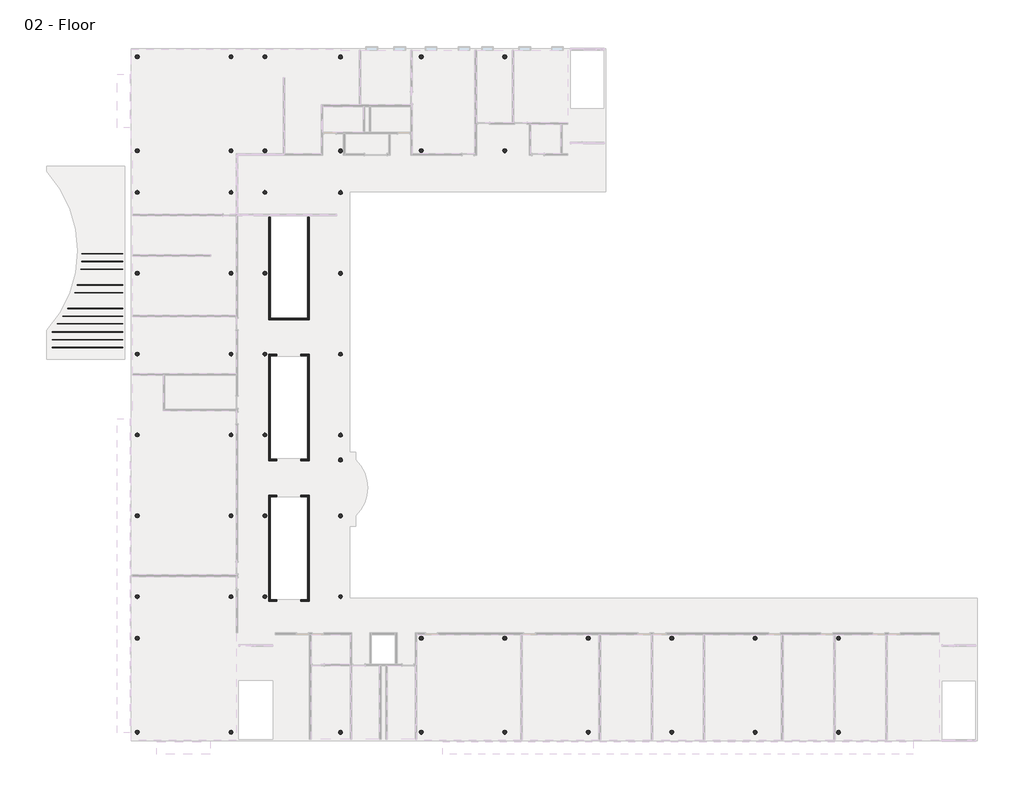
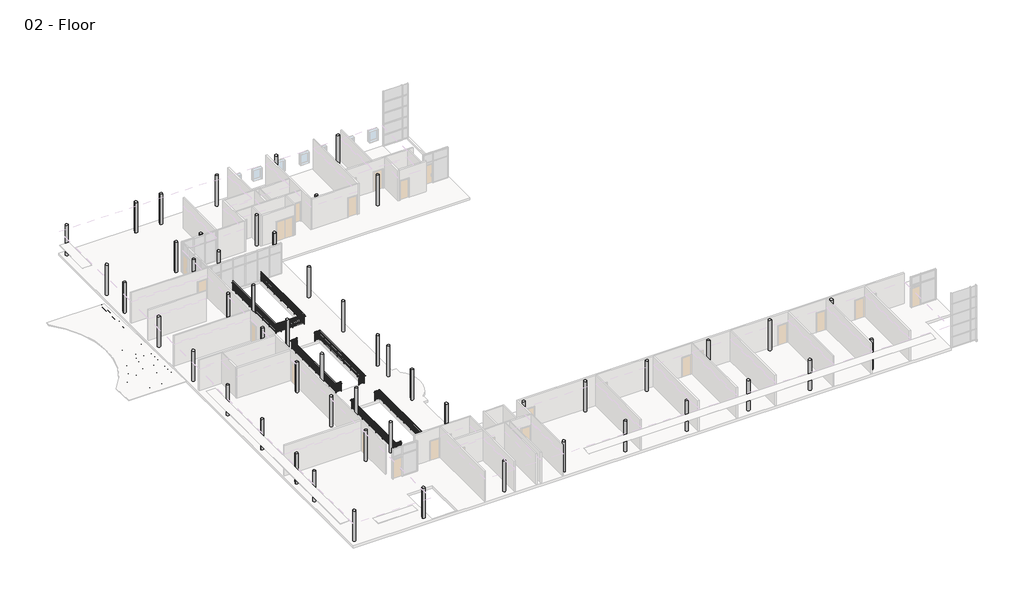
# One storey, part 5 of 5: 53 columns, 14 beams, 5 railings.
"""IFC4 building model written with IfcOpenShell, lengths in millimetres."""

from ifc_helpers import new_model, si_unit, point, frame, frame_2d, origin, place, context, project, spatial, circle_curve, trimmed, segment, composite_curve, outline, extrude, transform, mapped, element, save
from components import k_series_bar_joist_rod_web_8k1_218abb50, k_series_bar_joist_rod_web_8k1_a298f018, k_series_bar_joist_rod_web_8k1_5ba47054, k_series_bar_joist_rod_web_8k1_7ca94746, k_series_bar_joist_rod_web_8k1_f1b48c2f, k_series_bar_joist_rod_web_8k1_67cc681e, k_series_bar_joist_rod_web_8k1_7126daa4, k_series_bar_joist_rod_web_8k1_4aadf061, k_series_bar_joist_rod_web_8k1_1f0329fa, k_series_bar_joist_rod_web_8k1_fc2c6b5f, k_series_bar_joist_rod_web_8k1_7da3c62f, k_series_bar_joist_rod_web_8k1_abf054b3, w_wide_flange_w12x26_f0aa8a0b, guardrail_pipe_c5bc1630, guardrail_pipe_ba8d120a, guardrail_pipe_d66bd3a1, guardrail_pipe_35cc9563, guardrail_pipe_73f3f576

model = new_model("IFC4")

# Units and contexts
model_context = context("Model", 3, world=origin())
ifc_project = project(units=[si_unit("LENGTHUNIT", "METRE", prefix="MILLI")], contexts=[model_context])

# Site, building, storey
site = spatial("IfcSite", under=ifc_project)
building = spatial("IfcBuilding", under=site)
storey = spatial("IfcBuildingStorey", under=building, Name="02 - Floor", Elevation=3657.6)

# Beams
placement = place(None, origin())
k_series_bar_joist_rod_web_8k1_shape = k_series_bar_joist_rod_web_8k1_218abb50(model_context)
element("IfcBeam", 1, ObjectType="K-Series Bar Joist-Rod Web : 8K1", at=placement, inside=storey, context=model_context, shape_type="MappedRepresentation", body=[
    mapped(k_series_bar_joist_rod_web_8k1_shape, transform((-2077.8534975, 37887.4874936, 3763.3936918), x_axis=(1.0, 0.0, 0.0), y_axis=(0.0, 0.9995376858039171, -0.030404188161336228), z_axis=(0.0, 0.030404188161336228, 0.9995376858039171))),
])
k_series_bar_joist_rod_web_8k1_2_shape = k_series_bar_joist_rod_web_8k1_a298f018(model_context)
element("IfcBeam", 2, ObjectType="K-Series Bar Joist-Rod Web : 8K1", at=placement, inside=storey, context=model_context, shape_type="MappedRepresentation", body=[
    mapped(k_series_bar_joist_rod_web_8k1_2_shape, transform((-2094.5285249, 37278.1693203, 3781.9280849), x_axis=(1.0, 0.0, 0.0), y_axis=(0.0, 0.9995376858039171, -0.030404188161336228), z_axis=(0.0, 0.030404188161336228, 0.9995376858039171))),
])
k_series_bar_joist_rod_web_8k1_3_shape = k_series_bar_joist_rod_web_8k1_5ba47054(model_context)
element("IfcBeam", 3, ObjectType="K-Series Bar Joist-Rod Web : 8K1", at=placement, inside=storey, context=model_context, shape_type="MappedRepresentation", body=[
    mapped(k_series_bar_joist_rod_web_8k1_3_shape, transform((-2131.1144026, 36668.851147, 3800.462478), x_axis=(1.0, 0.0, 0.0), y_axis=(0.0, 0.9995376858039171, -0.030404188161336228), z_axis=(0.0, 0.030404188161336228, 0.9995376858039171))),
])
k_series_bar_joist_rod_web_8k1_4_shape = k_series_bar_joist_rod_web_8k1_7ca94746(model_context)
element("IfcBeam", 4, ObjectType="K-Series Bar Joist-Rod Web : 8K1", at=placement, inside=storey, context=model_context, shape_type="MappedRepresentation", body=[
    mapped(k_series_bar_joist_rod_web_8k1_4_shape, transform((-2188.0848485, 36059.5329738, 3818.9968711), x_axis=(1.0, 0.0, 0.0), y_axis=(0.0, 0.9995376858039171, -0.030404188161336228), z_axis=(0.0, 0.030404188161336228, 0.9995376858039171))),
])
k_series_bar_joist_rod_web_8k1_5_shape = k_series_bar_joist_rod_web_8k1_f1b48c2f(model_context)
element("IfcBeam", 5, ObjectType="K-Series Bar Joist-Rod Web : 8K1", at=placement, inside=storey, context=model_context, shape_type="MappedRepresentation", body=[
    mapped(k_series_bar_joist_rod_web_8k1_5_shape, transform((-2266.208057, 35450.2148005, 3837.5312642), x_axis=(1.0, 0.0, 0.0), y_axis=(0.0, 0.9995376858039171, -0.030404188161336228), z_axis=(0.0, 0.030404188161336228, 0.9995376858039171))),
])
k_series_bar_joist_rod_web_8k1_6_shape = k_series_bar_joist_rod_web_8k1_67cc681e(model_context)
element("IfcBeam", 6, ObjectType="K-Series Bar Joist-Rod Web : 8K1", at=placement, inside=storey, context=model_context, shape_type="MappedRepresentation", body=[
    mapped(k_series_bar_joist_rod_web_8k1_6_shape, transform((-2366.6018476, 34840.8966272, 3856.0656573), x_axis=(1.0, 0.0, 0.0), y_axis=(0.0, 0.9995376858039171, -0.030404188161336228), z_axis=(0.0, 0.030404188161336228, 0.9995376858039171))),
])
k_series_bar_joist_rod_web_8k1_7_shape = k_series_bar_joist_rod_web_8k1_7126daa4(model_context)
element("IfcBeam", 7, ObjectType="K-Series Bar Joist-Rod Web : 8K1", at=placement, inside=storey, context=model_context, shape_type="MappedRepresentation", body=[
    mapped(k_series_bar_joist_rod_web_8k1_7_shape, transform((-2490.8221092, 34231.578454, 3874.6000504), x_axis=(1.0, 0.0, 0.0), y_axis=(0.0, 0.9995376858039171, -0.030404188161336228), z_axis=(0.0, 0.030404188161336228, 0.9995376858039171))),
])
k_series_bar_joist_rod_web_8k1_8_shape = k_series_bar_joist_rod_web_8k1_4aadf061(model_context)
element("IfcBeam", 8, ObjectType="K-Series Bar Joist-Rod Web : 8K1", at=placement, inside=storey, context=model_context, shape_type="MappedRepresentation", body=[
    mapped(k_series_bar_joist_rod_web_8k1_8_shape, transform((-2641.0026789, 33622.2602807, 3893.1344435), x_axis=(1.0, 0.0, 0.0), y_axis=(0.0, 0.9995376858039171, -0.030404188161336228), z_axis=(0.0, 0.030404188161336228, 0.9995376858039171))),
])
k_series_bar_joist_rod_web_8k1_9_shape = k_series_bar_joist_rod_web_8k1_1f0329fa(model_context)
element("IfcBeam", 9, ObjectType="K-Series Bar Joist-Rod Web : 8K1", at=placement, inside=storey, context=model_context, shape_type="MappedRepresentation", body=[
    mapped(k_series_bar_joist_rod_web_8k1_9_shape, transform((-2820.0804836, 33012.9421074, 3911.6688366), x_axis=(1.0, 0.0, 0.0), y_axis=(0.0, 0.9995376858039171, -0.030404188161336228), z_axis=(0.0, 0.030404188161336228, 0.9995376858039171))),
])
k_series_bar_joist_rod_web_8k1_10_shape = k_series_bar_joist_rod_web_8k1_fc2c6b5f(model_context)
element("IfcBeam", 10, ObjectType="K-Series Bar Joist-Rod Web : 8K1", at=placement, inside=storey, context=model_context, shape_type="MappedRepresentation", body=[
    mapped(k_series_bar_joist_rod_web_8k1_10_shape, transform((-3032.172395, 32403.6239342, 3930.2032297), x_axis=(1.0, 0.0, 0.0), y_axis=(0.0, 0.9995376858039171, -0.030404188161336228), z_axis=(0.0, 0.030404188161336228, 0.9995376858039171))),
])
k_series_bar_joist_rod_web_8k1_11_shape = k_series_bar_joist_rod_web_8k1_7da3c62f(model_context)
element("IfcBeam", 11, ObjectType="K-Series Bar Joist-Rod Web : 8K1", at=placement, inside=storey, context=model_context, shape_type="MappedRepresentation", body=[
    mapped(k_series_bar_joist_rod_web_8k1_11_shape, transform((-3234.7719068, 31794.3057609, 3948.7376228), x_axis=(1.0, 0.0, 0.0), y_axis=(0.0, 0.9995376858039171, -0.030404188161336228), z_axis=(0.0, 0.030404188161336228, 0.9995376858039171))),
])
k_series_bar_joist_rod_web_8k1_12_shape = k_series_bar_joist_rod_web_8k1_abf054b3(model_context)
element("IfcBeam", 12, ObjectType="K-Series Bar Joist-Rod Web : 8K1", at=placement, inside=storey, context=model_context, shape_type="MappedRepresentation", body=[
    mapped(k_series_bar_joist_rod_web_8k1_12_shape, transform((-3234.7719068, 31184.9875876, 3967.2720159), x_axis=(1.0, 0.0, 0.0), y_axis=(0.0, 0.9995376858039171, -0.030404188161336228), z_axis=(0.0, 0.030404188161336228, 0.9995376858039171))),
])
element("IfcBeam", 13, ObjectType="K-Series Bar Joist-Rod Web : 8K1", at=placement, inside=storey, context=model_context, shape_type="MappedRepresentation", body=[
    mapped(k_series_bar_joist_rod_web_8k1_12_shape, transform((-3234.7719068, 30575.6694144, 3985.806409), x_axis=(1.0, 0.0, 0.0), y_axis=(0.0, 0.9995376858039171, -0.030404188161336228), z_axis=(0.0, 0.030404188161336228, 0.9995376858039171))),
])
w_wide_flange_w12x26_shape = w_wide_flange_w12x26_f0aa8a0b(model_context)
element("IfcBeam", 14, ObjectType="W-Wide Flange : W12X26", at=placement, inside=storey, context=model_context, shape_type="MappedRepresentation", body=[
    mapped(w_wide_flange_w12x26_shape, transform((-532.4792524, 37372.862881, 3751.8615157), x_axis=(0.0, -0.9996747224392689, 0.025503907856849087), y_axis=(1.0, 0.0, 0.0), z_axis=(0.0, 0.025503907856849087, 0.9996747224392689))),
])

# Columns
element("IfcColumn", 15, ObjectType="Concrete-Round-Column : 12\"", at=placement, inside=storey, context=model_context, shape_type="SweptSolid", body=[
    extrude(outline(composite_curve([segment(trimmed(circle_curve(frame_2d((635.9207476, 53228.8)), 152.4), [point((788.3207476, 53228.8))], [point((483.5207476, 53228.8))], False, "CARTESIAN"), True, "CONTINUOUS"), segment(trimmed(circle_curve(frame_2d((635.9207476, 53228.8)), 152.4), [point((483.5207476, 53228.8))], [point((788.3207476, 53228.8))], False, "CARTESIAN"), True, "CONTINUOUS")], self_intersect=False)), frame((0.0, 0.0, 3657.6), z_axis=(0.0, 0.0, 1.0), x_axis=(1.0, 0.0, 0.0)), (0.0, 0.0, 1.0), 3403.6),
])
element("IfcColumn", 16, ObjectType="Concrete-Round-Column : 12\"", at=placement, inside=storey, context=model_context, shape_type="SweptSolid", body=[
    extrude(outline(composite_curve([segment(trimmed(circle_curve(frame_2d((635.9207476, 45913.6)), 152.4), [point((788.3207476, 45913.6))], [point((483.5207476, 45913.6))], False, "CARTESIAN"), True, "CONTINUOUS"), segment(trimmed(circle_curve(frame_2d((635.9207476, 45913.6)), 152.4), [point((483.5207476, 45913.6))], [point((788.3207476, 45913.6))], False, "CARTESIAN"), True, "CONTINUOUS")], self_intersect=False)), frame((0.0, 0.0, 3657.6), z_axis=(0.0, 0.0, 1.0), x_axis=(1.0, 0.0, 0.0)), (0.0, 0.0, 1.0), 3403.6),
])
element("IfcColumn", 17, ObjectType="Concrete-Round-Column : 12\"", at=placement, inside=storey, context=model_context, shape_type="SweptSolid", body=[
    extrude(outline(composite_curve([segment(trimmed(circle_curve(frame_2d((635.9207476, 42662.4)), 152.4), [point((788.3207476, 42662.4))], [point((483.5207476, 42662.4))], False, "CARTESIAN"), True, "CONTINUOUS"), segment(trimmed(circle_curve(frame_2d((635.9207476, 42662.4)), 152.4), [point((483.5207476, 42662.4))], [point((788.3207476, 42662.4))], False, "CARTESIAN"), True, "CONTINUOUS")], self_intersect=False)), frame((0.0, 0.0, 3657.6), z_axis=(0.0, 0.0, 1.0), x_axis=(1.0, 0.0, 0.0)), (0.0, 0.0, 1.0), 3403.6),
])
element("IfcColumn", 18, ObjectType="Concrete-Round-Column : 12\"", at=placement, inside=storey, context=model_context, shape_type="SweptSolid", body=[
    extrude(outline(composite_curve([segment(trimmed(circle_curve(frame_2d((635.9207476, 36363.2)), 152.4), [point((788.3207476, 36363.2))], [point((483.5207476, 36363.2))], False, "CARTESIAN"), True, "CONTINUOUS"), segment(trimmed(circle_curve(frame_2d((635.9207476, 36363.2)), 152.4), [point((483.5207476, 36363.2))], [point((788.3207476, 36363.2))], False, "CARTESIAN"), True, "CONTINUOUS")], self_intersect=False)), frame((0.0, 0.0, 3657.6), z_axis=(0.0, 0.0, 1.0), x_axis=(1.0, 0.0, 0.0)), (0.0, 0.0, 1.0), 3403.6),
])
element("IfcColumn", 19, ObjectType="Concrete-Round-Column : 12\"", at=placement, inside=storey, context=model_context, shape_type="SweptSolid", body=[
    extrude(outline(composite_curve([segment(trimmed(circle_curve(frame_2d((635.9207476, 30064.0)), 152.4), [point((788.3207476, 30064.0))], [point((483.5207476, 30064.0))], False, "CARTESIAN"), True, "CONTINUOUS"), segment(trimmed(circle_curve(frame_2d((635.9207476, 30064.0)), 152.4), [point((483.5207476, 30064.0))], [point((788.3207476, 30064.0))], False, "CARTESIAN"), True, "CONTINUOUS")], self_intersect=False)), frame((0.0, 0.0, 3657.6), z_axis=(0.0, 0.0, 1.0), x_axis=(1.0, 0.0, 0.0)), (0.0, 0.0, 1.0), 3403.6),
])
element("IfcColumn", 20, ObjectType="Concrete-Round-Column : 12\"", at=placement, inside=storey, context=model_context, shape_type="SweptSolid", body=[
    extrude(outline(composite_curve([segment(trimmed(circle_curve(frame_2d((635.9207476, 23764.8)), 152.4), [point((788.3207476, 23764.8))], [point((483.5207476, 23764.8))], False, "CARTESIAN"), True, "CONTINUOUS"), segment(trimmed(circle_curve(frame_2d((635.9207476, 23764.8)), 152.4), [point((483.5207476, 23764.8))], [point((788.3207476, 23764.8))], False, "CARTESIAN"), True, "CONTINUOUS")], self_intersect=False)), frame((0.0, 0.0, 3657.6), z_axis=(0.0, 0.0, 1.0), x_axis=(1.0, 0.0, 0.0)), (0.0, 0.0, 1.0), 3403.6),
])
element("IfcColumn", 21, ObjectType="Concrete-Round-Column : 12\"", at=placement, inside=storey, context=model_context, shape_type="SweptSolid", body=[
    extrude(outline(composite_curve([segment(trimmed(circle_curve(frame_2d((635.9207476, 17465.6)), 152.4), [point((788.3207476, 17465.6))], [point((483.5207476, 17465.6))], False, "CARTESIAN"), True, "CONTINUOUS"), segment(trimmed(circle_curve(frame_2d((635.9207476, 17465.6)), 152.4), [point((483.5207476, 17465.6))], [point((788.3207476, 17465.6))], False, "CARTESIAN"), True, "CONTINUOUS")], self_intersect=False)), frame((0.0, 0.0, 3657.6), z_axis=(0.0, 0.0, 1.0), x_axis=(1.0, 0.0, 0.0)), (0.0, 0.0, 1.0), 3403.6),
])
element("IfcColumn", 22, ObjectType="Concrete-Round-Column : 12\"", at=placement, inside=storey, context=model_context, shape_type="SweptSolid", body=[
    extrude(outline(composite_curve([segment(trimmed(circle_curve(frame_2d((635.9207476, 11166.4)), 152.4), [point((788.3207476, 11166.4))], [point((483.5207476, 11166.4))], False, "CARTESIAN"), True, "CONTINUOUS"), segment(trimmed(circle_curve(frame_2d((635.9207476, 11166.4)), 152.4), [point((483.5207476, 11166.4))], [point((788.3207476, 11166.4))], False, "CARTESIAN"), True, "CONTINUOUS")], self_intersect=False)), frame((0.0, 0.0, 3657.6), z_axis=(0.0, 0.0, 1.0), x_axis=(1.0, 0.0, 0.0)), (0.0, 0.0, 1.0), 3403.6),
])
element("IfcColumn", 23, ObjectType="Concrete-Round-Column : 12\"", at=placement, inside=storey, context=model_context, shape_type="SweptSolid", body=[
    extrude(outline(composite_curve([segment(trimmed(circle_curve(frame_2d((635.9207476, 7915.2)), 152.4), [point((788.3207476, 7915.2))], [point((483.5207476, 7915.2))], False, "CARTESIAN"), True, "CONTINUOUS"), segment(trimmed(circle_curve(frame_2d((635.9207476, 7915.2)), 152.4), [point((483.5207476, 7915.2))], [point((788.3207476, 7915.2))], False, "CARTESIAN"), True, "CONTINUOUS")], self_intersect=False)), frame((0.0, 0.0, 3657.6), z_axis=(0.0, 0.0, 1.0), x_axis=(1.0, 0.0, 0.0)), (0.0, 0.0, 1.0), 3403.6),
])
element("IfcColumn", 24, ObjectType="Concrete-Round-Column : 12\"", at=placement, inside=storey, context=model_context, shape_type="SweptSolid", body=[
    extrude(outline(composite_curve([segment(trimmed(circle_curve(frame_2d((635.9207476, 600.0)), 152.4), [point((788.3207476, 600.0))], [point((483.5207476, 600.0))], False, "CARTESIAN"), True, "CONTINUOUS"), segment(trimmed(circle_curve(frame_2d((635.9207476, 600.0)), 152.4), [point((483.5207476, 600.0))], [point((788.3207476, 600.0))], False, "CARTESIAN"), True, "CONTINUOUS")], self_intersect=False)), frame((0.0, 0.0, 3657.6), z_axis=(0.0, 0.0, 1.0), x_axis=(1.0, 0.0, 0.0)), (0.0, 0.0, 1.0), 3403.6),
])
element("IfcColumn", 25, ObjectType="Concrete-Round-Column : 12\"", at=placement, inside=storey, context=model_context, shape_type="SweptSolid", body=[
    extrude(outline(composite_curve([segment(trimmed(circle_curve(frame_2d((10592.7207476, 53228.8)), 152.4), [point((10745.1207476, 53228.8))], [point((10440.3207476, 53228.8))], False, "CARTESIAN"), True, "CONTINUOUS"), segment(trimmed(circle_curve(frame_2d((10592.7207476, 53228.8)), 152.4), [point((10440.3207476, 53228.8))], [point((10745.1207476, 53228.8))], False, "CARTESIAN"), True, "CONTINUOUS")], self_intersect=False)), frame((0.0, 0.0, 3657.6), z_axis=(0.0, 0.0, 1.0), x_axis=(1.0, 0.0, 0.0)), (0.0, 0.0, 1.0), 3403.6),
])
element("IfcColumn", 26, ObjectType="Concrete-Round-Column : 12\"", at=placement, inside=storey, context=model_context, shape_type="SweptSolid", body=[
    extrude(outline(composite_curve([segment(trimmed(circle_curve(frame_2d((10592.7207476, 45913.6)), 152.4), [point((10745.1207476, 45913.6))], [point((10440.3207476, 45913.6))], False, "CARTESIAN"), True, "CONTINUOUS"), segment(trimmed(circle_curve(frame_2d((10592.7207476, 45913.6)), 152.4), [point((10440.3207476, 45913.6))], [point((10745.1207476, 45913.6))], False, "CARTESIAN"), True, "CONTINUOUS")], self_intersect=False)), frame((0.0, 0.0, 3657.6), z_axis=(0.0, 0.0, 1.0), x_axis=(1.0, 0.0, 0.0)), (0.0, 0.0, 1.0), 3403.6),
])
element("IfcColumn", 27, ObjectType="Concrete-Round-Column : 12\"", at=placement, inside=storey, context=model_context, shape_type="SweptSolid", body=[
    extrude(outline(composite_curve([segment(trimmed(circle_curve(frame_2d((10592.7207476, 42662.4)), 152.4), [point((10745.1207476, 42662.4))], [point((10440.3207476, 42662.4))], False, "CARTESIAN"), True, "CONTINUOUS"), segment(trimmed(circle_curve(frame_2d((10592.7207476, 42662.4)), 152.4), [point((10440.3207476, 42662.4))], [point((10745.1207476, 42662.4))], False, "CARTESIAN"), True, "CONTINUOUS")], self_intersect=False)), frame((0.0, 0.0, 3657.6), z_axis=(0.0, 0.0, 1.0), x_axis=(1.0, 0.0, 0.0)), (0.0, 0.0, 1.0), 3403.6),
])
element("IfcColumn", 28, ObjectType="Concrete-Round-Column : 12\"", at=placement, inside=storey, context=model_context, shape_type="SweptSolid", body=[
    extrude(outline(composite_curve([segment(trimmed(circle_curve(frame_2d((10592.7207476, 36363.2)), 152.4), [point((10745.1207476, 36363.2))], [point((10440.3207476, 36363.2))], False, "CARTESIAN"), True, "CONTINUOUS"), segment(trimmed(circle_curve(frame_2d((10592.7207476, 36363.2)), 152.4), [point((10440.3207476, 36363.2))], [point((10745.1207476, 36363.2))], False, "CARTESIAN"), True, "CONTINUOUS")], self_intersect=False)), frame((0.0, 0.0, 3657.6), z_axis=(0.0, 0.0, 1.0), x_axis=(1.0, 0.0, 0.0)), (0.0, 0.0, 1.0), 3403.6),
])
element("IfcColumn", 29, ObjectType="Concrete-Round-Column : 12\"", at=placement, inside=storey, context=model_context, shape_type="SweptSolid", body=[
    extrude(outline(composite_curve([segment(trimmed(circle_curve(frame_2d((10592.7207476, 30064.0)), 152.4), [point((10745.1207476, 30064.0))], [point((10440.3207476, 30064.0))], False, "CARTESIAN"), True, "CONTINUOUS"), segment(trimmed(circle_curve(frame_2d((10592.7207476, 30064.0)), 152.4), [point((10440.3207476, 30064.0))], [point((10745.1207476, 30064.0))], False, "CARTESIAN"), True, "CONTINUOUS")], self_intersect=False)), frame((0.0, 0.0, 3657.6), z_axis=(0.0, 0.0, 1.0), x_axis=(1.0, 0.0, 0.0)), (0.0, 0.0, 1.0), 3403.6),
])
element("IfcColumn", 30, ObjectType="Concrete-Round-Column : 12\"", at=placement, inside=storey, context=model_context, shape_type="SweptSolid", body=[
    extrude(outline(composite_curve([segment(trimmed(circle_curve(frame_2d((10592.7207476, 23764.8)), 152.4), [point((10745.1207476, 23764.8))], [point((10440.3207476, 23764.8))], False, "CARTESIAN"), True, "CONTINUOUS"), segment(trimmed(circle_curve(frame_2d((10592.7207476, 23764.8)), 152.4), [point((10440.3207476, 23764.8))], [point((10745.1207476, 23764.8))], False, "CARTESIAN"), True, "CONTINUOUS")], self_intersect=False)), frame((0.0, 0.0, 3657.6), z_axis=(0.0, 0.0, 1.0), x_axis=(1.0, 0.0, 0.0)), (0.0, 0.0, 1.0), 3403.6),
])
element("IfcColumn", 31, ObjectType="Concrete-Round-Column : 12\"", at=placement, inside=storey, context=model_context, shape_type="SweptSolid", body=[
    extrude(outline(composite_curve([segment(trimmed(circle_curve(frame_2d((10592.7207476, 17465.6)), 152.4), [point((10745.1207476, 17465.6))], [point((10440.3207476, 17465.6))], False, "CARTESIAN"), True, "CONTINUOUS"), segment(trimmed(circle_curve(frame_2d((10592.7207476, 17465.6)), 152.4), [point((10440.3207476, 17465.6))], [point((10745.1207476, 17465.6))], False, "CARTESIAN"), True, "CONTINUOUS")], self_intersect=False)), frame((0.0, 0.0, 3657.6), z_axis=(0.0, 0.0, 1.0), x_axis=(1.0, 0.0, 0.0)), (0.0, 0.0, 1.0), 3403.6),
])
element("IfcColumn", 32, ObjectType="Concrete-Round-Column : 12\"", at=placement, inside=storey, context=model_context, shape_type="SweptSolid", body=[
    extrude(outline(composite_curve([segment(trimmed(circle_curve(frame_2d((10592.7207476, 11166.4)), 152.4), [point((10745.1207476, 11166.4))], [point((10440.3207476, 11166.4))], False, "CARTESIAN"), True, "CONTINUOUS"), segment(trimmed(circle_curve(frame_2d((10592.7207476, 11166.4)), 152.4), [point((10440.3207476, 11166.4))], [point((10745.1207476, 11166.4))], False, "CARTESIAN"), True, "CONTINUOUS")], self_intersect=False)), frame((0.0, 0.0, 3657.6), z_axis=(0.0, 0.0, 1.0), x_axis=(1.0, 0.0, 0.0)), (0.0, 0.0, 1.0), 3403.6),
])
element("IfcColumn", 33, ObjectType="Concrete-Round-Column : 12\"", at=placement, inside=storey, context=model_context, shape_type="SweptSolid", body=[
    extrude(outline(composite_curve([segment(trimmed(circle_curve(frame_2d((16485.5207476, 53228.8)), 152.4), [point((16637.9207476, 53228.8))], [point((16333.1207476, 53228.8))], False, "CARTESIAN"), True, "CONTINUOUS"), segment(trimmed(circle_curve(frame_2d((16485.5207476, 53228.8)), 152.4), [point((16333.1207476, 53228.8))], [point((16637.9207476, 53228.8))], False, "CARTESIAN"), True, "CONTINUOUS")], self_intersect=False)), frame((0.0, 0.0, 3657.6), z_axis=(0.0, 0.0, 1.0), x_axis=(1.0, 0.0, 0.0)), (0.0, 0.0, 1.0), 3403.6),
])
element("IfcColumn", 34, ObjectType="Concrete-Round-Column : 12\"", at=placement, inside=storey, context=model_context, shape_type="SweptSolid", body=[
    extrude(outline(composite_curve([segment(trimmed(circle_curve(frame_2d((16485.5207476, 45913.6)), 152.4), [point((16637.9207476, 45913.6))], [point((16333.1207476, 45913.6))], False, "CARTESIAN"), True, "CONTINUOUS"), segment(trimmed(circle_curve(frame_2d((16485.5207476, 45913.6)), 152.4), [point((16333.1207476, 45913.6))], [point((16637.9207476, 45913.6))], False, "CARTESIAN"), True, "CONTINUOUS")], self_intersect=False)), frame((0.0, 0.0, 3657.6), z_axis=(0.0, 0.0, 1.0), x_axis=(1.0, 0.0, 0.0)), (0.0, 0.0, 1.0), 3403.6),
])
element("IfcColumn", 35, ObjectType="Concrete-Round-Column : 12\"", at=placement, inside=storey, context=model_context, shape_type="SweptSolid", body=[
    extrude(outline(composite_curve([segment(trimmed(circle_curve(frame_2d((16485.5207476, 42662.4)), 152.4), [point((16637.9207476, 42662.4))], [point((16333.1207476, 42662.4))], False, "CARTESIAN"), True, "CONTINUOUS"), segment(trimmed(circle_curve(frame_2d((16485.5207476, 42662.4)), 152.4), [point((16333.1207476, 42662.4))], [point((16637.9207476, 42662.4))], False, "CARTESIAN"), True, "CONTINUOUS")], self_intersect=False)), frame((0.0, 0.0, 3657.6), z_axis=(0.0, 0.0, 1.0), x_axis=(1.0, 0.0, 0.0)), (0.0, 0.0, 1.0), 3403.6),
])
element("IfcColumn", 36, ObjectType="Concrete-Round-Column : 12\"", at=placement, inside=storey, context=model_context, shape_type="SweptSolid", body=[
    extrude(outline(composite_curve([segment(trimmed(circle_curve(frame_2d((16485.5207476, 36363.2)), 152.4), [point((16637.9207476, 36363.2))], [point((16333.1207476, 36363.2))], False, "CARTESIAN"), True, "CONTINUOUS"), segment(trimmed(circle_curve(frame_2d((16485.5207476, 36363.2)), 152.4), [point((16333.1207476, 36363.2))], [point((16637.9207476, 36363.2))], False, "CARTESIAN"), True, "CONTINUOUS")], self_intersect=False)), frame((0.0, 0.0, 3657.6), z_axis=(0.0, 0.0, 1.0), x_axis=(1.0, 0.0, 0.0)), (0.0, 0.0, 1.0), 3403.6),
])
element("IfcColumn", 37, ObjectType="Concrete-Round-Column : 12\"", at=placement, inside=storey, context=model_context, shape_type="SweptSolid", body=[
    extrude(outline(composite_curve([segment(trimmed(circle_curve(frame_2d((16485.5207476, 30064.0)), 152.4), [point((16637.9207476, 30064.0))], [point((16333.1207476, 30064.0))], False, "CARTESIAN"), True, "CONTINUOUS"), segment(trimmed(circle_curve(frame_2d((16485.5207476, 30064.0)), 152.4), [point((16333.1207476, 30064.0))], [point((16637.9207476, 30064.0))], False, "CARTESIAN"), True, "CONTINUOUS")], self_intersect=False)), frame((0.0, 0.0, 3657.6), z_axis=(0.0, 0.0, 1.0), x_axis=(1.0, 0.0, 0.0)), (0.0, 0.0, 1.0), 3403.6),
])
element("IfcColumn", 38, ObjectType="Concrete-Round-Column : 12\"", at=placement, inside=storey, context=model_context, shape_type="SweptSolid", body=[
    extrude(outline(composite_curve([segment(trimmed(circle_curve(frame_2d((16485.5207476, 23764.8)), 152.4), [point((16637.9207476, 23764.8))], [point((16333.1207476, 23764.8))], False, "CARTESIAN"), True, "CONTINUOUS"), segment(trimmed(circle_curve(frame_2d((16485.5207476, 23764.8)), 152.4), [point((16333.1207476, 23764.8))], [point((16637.9207476, 23764.8))], False, "CARTESIAN"), True, "CONTINUOUS")], self_intersect=False)), frame((0.0, 0.0, 3657.6), z_axis=(0.0, 0.0, 1.0), x_axis=(1.0, 0.0, 0.0)), (0.0, 0.0, 1.0), 3403.6),
])
element("IfcColumn", 39, ObjectType="Concrete-Round-Column : 12\"", at=placement, inside=storey, context=model_context, shape_type="SweptSolid", body=[
    extrude(outline(composite_curve([segment(trimmed(circle_curve(frame_2d((16485.5207476, 17465.6)), 152.4), [point((16637.9207476, 17465.6))], [point((16333.1207476, 17465.6))], False, "CARTESIAN"), True, "CONTINUOUS"), segment(trimmed(circle_curve(frame_2d((16485.5207476, 17465.6)), 152.4), [point((16333.1207476, 17465.6))], [point((16637.9207476, 17465.6))], False, "CARTESIAN"), True, "CONTINUOUS")], self_intersect=False)), frame((0.0, 0.0, 3657.6), z_axis=(0.0, 0.0, 1.0), x_axis=(1.0, 0.0, 0.0)), (0.0, 0.0, 1.0), 3403.6),
])
element("IfcColumn", 40, ObjectType="Concrete-Round-Column : 12\"", at=placement, inside=storey, context=model_context, shape_type="SweptSolid", body=[
    extrude(outline(composite_curve([segment(trimmed(circle_curve(frame_2d((16485.5207476, 11166.4)), 152.4), [point((16637.9207476, 11166.4))], [point((16333.1207476, 11166.4))], False, "CARTESIAN"), True, "CONTINUOUS"), segment(trimmed(circle_curve(frame_2d((16485.5207476, 11166.4)), 152.4), [point((16333.1207476, 11166.4))], [point((16637.9207476, 11166.4))], False, "CARTESIAN"), True, "CONTINUOUS")], self_intersect=False)), frame((0.0, 0.0, 3657.6), z_axis=(0.0, 0.0, 1.0), x_axis=(1.0, 0.0, 0.0)), (0.0, 0.0, 1.0), 3403.6),
])
element("IfcColumn", 41, ObjectType="Concrete-Round-Column : 12\"", at=placement, inside=storey, context=model_context, shape_type="SweptSolid", body=[
    extrude(outline(composite_curve([segment(trimmed(circle_curve(frame_2d((16485.5207476, 600.0)), 152.4), [point((16637.9207476, 600.0))], [point((16333.1207476, 600.0))], False, "CARTESIAN"), True, "CONTINUOUS"), segment(trimmed(circle_curve(frame_2d((16485.5207476, 600.0)), 152.4), [point((16333.1207476, 600.0))], [point((16637.9207476, 600.0))], False, "CARTESIAN"), True, "CONTINUOUS")], self_intersect=False)), frame((0.0, 0.0, 3657.6), z_axis=(0.0, 0.0, 1.0), x_axis=(1.0, 0.0, 0.0)), (0.0, 0.0, 1.0), 3403.6),
])
element("IfcColumn", 42, ObjectType="Concrete-Round-Column : 12\"", at=placement, inside=storey, context=model_context, shape_type="SweptSolid", body=[
    extrude(outline(composite_curve([segment(trimmed(circle_curve(frame_2d((16485.5207476, 21821.7)), 152.4), [point((16637.9207476, 21821.7))], [point((16333.1207476, 21821.7))], False, "CARTESIAN"), True, "CONTINUOUS"), segment(trimmed(circle_curve(frame_2d((16485.5207476, 21821.7)), 152.4), [point((16333.1207476, 21821.7))], [point((16637.9207476, 21821.7))], False, "CARTESIAN"), True, "CONTINUOUS")], self_intersect=False)), frame((0.0, 0.0, 3657.6), z_axis=(0.0, 0.0, 1.0), x_axis=(1.0, 0.0, 0.0)), (0.0, 0.0, 1.0), 3403.6),
])
element("IfcColumn", 43, ObjectType="Concrete-Round-Column : 12\"", at=placement, inside=storey, context=model_context, shape_type="SweptSolid", body=[
    extrude(outline(composite_curve([segment(trimmed(circle_curve(frame_2d((22784.7207476, 53228.8)), 152.4), [point((22937.1207476, 53228.8))], [point((22632.3207476, 53228.8))], False, "CARTESIAN"), True, "CONTINUOUS"), segment(trimmed(circle_curve(frame_2d((22784.7207476, 53228.8)), 152.4), [point((22632.3207476, 53228.8))], [point((22937.1207476, 53228.8))], False, "CARTESIAN"), True, "CONTINUOUS")], self_intersect=False)), frame((0.0, 0.0, 3657.6), z_axis=(0.0, 0.0, 1.0), x_axis=(1.0, 0.0, 0.0)), (0.0, 0.0, 1.0), 3403.6),
])
element("IfcColumn", 44, ObjectType="Concrete-Round-Column : 12\"", at=placement, inside=storey, context=model_context, shape_type="SweptSolid", body=[
    extrude(outline(composite_curve([segment(trimmed(circle_curve(frame_2d((22784.7207476, 45913.6)), 152.4), [point((22937.1207476, 45913.6))], [point((22632.3207476, 45913.6))], False, "CARTESIAN"), True, "CONTINUOUS"), segment(trimmed(circle_curve(frame_2d((22784.7207476, 45913.6)), 152.4), [point((22632.3207476, 45913.6))], [point((22937.1207476, 45913.6))], False, "CARTESIAN"), True, "CONTINUOUS")], self_intersect=False)), frame((0.0, 0.0, 3657.6), z_axis=(0.0, 0.0, 1.0), x_axis=(1.0, 0.0, 0.0)), (0.0, 0.0, 1.0), 3403.6),
])
element("IfcColumn", 45, ObjectType="Concrete-Round-Column : 12\"", at=placement, inside=storey, context=model_context, shape_type="SweptSolid", body=[
    extrude(outline(composite_curve([segment(trimmed(circle_curve(frame_2d((22784.7207476, 7915.2)), 152.4), [point((22937.1207476, 7915.2))], [point((22632.3207476, 7915.2))], False, "CARTESIAN"), True, "CONTINUOUS"), segment(trimmed(circle_curve(frame_2d((22784.7207476, 7915.2)), 152.4), [point((22632.3207476, 7915.2))], [point((22937.1207476, 7915.2))], False, "CARTESIAN"), True, "CONTINUOUS")], self_intersect=False)), frame((0.0, 0.0, 3657.6), z_axis=(0.0, 0.0, 1.0), x_axis=(1.0, 0.0, 0.0)), (0.0, 0.0, 1.0), 3403.6),
])
element("IfcColumn", 46, ObjectType="Concrete-Round-Column : 12\"", at=placement, inside=storey, context=model_context, shape_type="SweptSolid", body=[
    extrude(outline(composite_curve([segment(trimmed(circle_curve(frame_2d((22784.7207476, 600.0)), 152.4), [point((22937.1207476, 600.0))], [point((22632.3207476, 600.0))], False, "CARTESIAN"), True, "CONTINUOUS"), segment(trimmed(circle_curve(frame_2d((22784.7207476, 600.0)), 152.4), [point((22632.3207476, 600.0))], [point((22937.1207476, 600.0))], False, "CARTESIAN"), True, "CONTINUOUS")], self_intersect=False)), frame((0.0, 0.0, 3657.6), z_axis=(0.0, 0.0, 1.0), x_axis=(1.0, 0.0, 0.0)), (0.0, 0.0, 1.0), 3403.6),
])
element("IfcColumn", 47, ObjectType="Concrete-Round-Column : 12\"", at=placement, inside=storey, context=model_context, shape_type="SweptSolid", body=[
    extrude(outline(composite_curve([segment(trimmed(circle_curve(frame_2d((29287.1207476, 53228.8)), 152.4), [point((29439.5207476, 53228.8))], [point((29134.7207476, 53228.8))], False, "CARTESIAN"), True, "CONTINUOUS"), segment(trimmed(circle_curve(frame_2d((29287.1207476, 53228.8)), 152.4), [point((29134.7207476, 53228.8))], [point((29439.5207476, 53228.8))], False, "CARTESIAN"), True, "CONTINUOUS")], self_intersect=False)), frame((0.0, 0.0, 3657.6), z_axis=(0.0, 0.0, 1.0), x_axis=(1.0, 0.0, 0.0)), (0.0, 0.0, 1.0), 3403.6),
])
element("IfcColumn", 48, ObjectType="Concrete-Round-Column : 12\"", at=placement, inside=storey, context=model_context, shape_type="SweptSolid", body=[
    extrude(outline(composite_curve([segment(trimmed(circle_curve(frame_2d((29287.1207476, 45913.6)), 152.4), [point((29439.5207476, 45913.6))], [point((29134.7207476, 45913.6))], False, "CARTESIAN"), True, "CONTINUOUS"), segment(trimmed(circle_curve(frame_2d((29287.1207476, 45913.6)), 152.4), [point((29134.7207476, 45913.6))], [point((29439.5207476, 45913.6))], False, "CARTESIAN"), True, "CONTINUOUS")], self_intersect=False)), frame((0.0, 0.0, 3657.6), z_axis=(0.0, 0.0, 1.0), x_axis=(1.0, 0.0, 0.0)), (0.0, 0.0, 1.0), 3403.6),
])
element("IfcColumn", 49, ObjectType="Concrete-Round-Column : 12\"", at=placement, inside=storey, context=model_context, shape_type="SweptSolid", body=[
    extrude(outline(composite_curve([segment(trimmed(circle_curve(frame_2d((29287.1207476, 7915.2)), 152.4), [point((29439.5207476, 7915.2))], [point((29134.7207476, 7915.2))], False, "CARTESIAN"), True, "CONTINUOUS"), segment(trimmed(circle_curve(frame_2d((29287.1207476, 7915.2)), 152.4), [point((29134.7207476, 7915.2))], [point((29439.5207476, 7915.2))], False, "CARTESIAN"), True, "CONTINUOUS")], self_intersect=False)), frame((0.0, 0.0, 3657.6), z_axis=(0.0, 0.0, 1.0), x_axis=(1.0, 0.0, 0.0)), (0.0, 0.0, 1.0), 3403.6),
])
element("IfcColumn", 50, ObjectType="Concrete-Round-Column : 12\"", at=placement, inside=storey, context=model_context, shape_type="SweptSolid", body=[
    extrude(outline(composite_curve([segment(trimmed(circle_curve(frame_2d((29287.1207476, 600.0)), 152.4), [point((29439.5207476, 600.0))], [point((29134.7207476, 600.0))], False, "CARTESIAN"), True, "CONTINUOUS"), segment(trimmed(circle_curve(frame_2d((29287.1207476, 600.0)), 152.4), [point((29134.7207476, 600.0))], [point((29439.5207476, 600.0))], False, "CARTESIAN"), True, "CONTINUOUS")], self_intersect=False)), frame((0.0, 0.0, 3657.6), z_axis=(0.0, 0.0, 1.0), x_axis=(1.0, 0.0, 0.0)), (0.0, 0.0, 1.0), 3403.6),
])
element("IfcColumn", 51, ObjectType="Concrete-Round-Column : 12\"", at=placement, inside=storey, context=model_context, shape_type="SweptSolid", body=[
    extrude(outline(composite_curve([segment(trimmed(circle_curve(frame_2d((35789.5207476, 7915.2)), 152.4), [point((35941.9207476, 7915.2))], [point((35637.1207476, 7915.2))], False, "CARTESIAN"), True, "CONTINUOUS"), segment(trimmed(circle_curve(frame_2d((35789.5207476, 7915.2)), 152.4), [point((35637.1207476, 7915.2))], [point((35941.9207476, 7915.2))], False, "CARTESIAN"), True, "CONTINUOUS")], self_intersect=False)), frame((0.0, 0.0, 3657.6), z_axis=(0.0, 0.0, 1.0), x_axis=(1.0, 0.0, 0.0)), (0.0, 0.0, 1.0), 3403.6),
])
element("IfcColumn", 52, ObjectType="Concrete-Round-Column : 12\"", at=placement, inside=storey, context=model_context, shape_type="SweptSolid", body=[
    extrude(outline(composite_curve([segment(trimmed(circle_curve(frame_2d((35789.5207476, 600.0)), 152.4), [point((35941.9207476, 600.0))], [point((35637.1207476, 600.0))], False, "CARTESIAN"), True, "CONTINUOUS"), segment(trimmed(circle_curve(frame_2d((35789.5207476, 600.0)), 152.4), [point((35637.1207476, 600.0))], [point((35941.9207476, 600.0))], False, "CARTESIAN"), True, "CONTINUOUS")], self_intersect=False)), frame((0.0, 0.0, 3657.6), z_axis=(0.0, 0.0, 1.0), x_axis=(1.0, 0.0, 0.0)), (0.0, 0.0, 1.0), 3403.6),
])
element("IfcColumn", 53, ObjectType="Concrete-Round-Column : 12\"", at=placement, inside=storey, context=model_context, shape_type="SweptSolid", body=[
    extrude(outline(composite_curve([segment(trimmed(circle_curve(frame_2d((42291.9207476, 7915.2)), 152.4), [point((42444.3207476, 7915.2))], [point((42139.5207476, 7915.2))], False, "CARTESIAN"), True, "CONTINUOUS"), segment(trimmed(circle_curve(frame_2d((42291.9207476, 7915.2)), 152.4), [point((42139.5207476, 7915.2))], [point((42444.3207476, 7915.2))], False, "CARTESIAN"), True, "CONTINUOUS")], self_intersect=False)), frame((0.0, 0.0, 3657.6), z_axis=(0.0, 0.0, 1.0), x_axis=(1.0, 0.0, 0.0)), (0.0, 0.0, 1.0), 3403.6),
])
element("IfcColumn", 54, ObjectType="Concrete-Round-Column : 12\"", at=placement, inside=storey, context=model_context, shape_type="SweptSolid", body=[
    extrude(outline(composite_curve([segment(trimmed(circle_curve(frame_2d((42291.9207476, 600.0)), 152.4), [point((42444.3207476, 600.0))], [point((42139.5207476, 600.0))], False, "CARTESIAN"), True, "CONTINUOUS"), segment(trimmed(circle_curve(frame_2d((42291.9207476, 600.0)), 152.4), [point((42139.5207476, 600.0))], [point((42444.3207476, 600.0))], False, "CARTESIAN"), True, "CONTINUOUS")], self_intersect=False)), frame((0.0, 0.0, 3657.6), z_axis=(0.0, 0.0, 1.0), x_axis=(1.0, 0.0, 0.0)), (0.0, 0.0, 1.0), 3403.6),
])
element("IfcColumn", 55, ObjectType="Concrete-Round-Column : 12\"", at=placement, inside=storey, context=model_context, shape_type="SweptSolid", body=[
    extrude(outline(composite_curve([segment(trimmed(circle_curve(frame_2d((48794.3207476, 7915.2)), 152.4), [point((48946.7207476, 7915.2))], [point((48641.9207476, 7915.2))], False, "CARTESIAN"), True, "CONTINUOUS"), segment(trimmed(circle_curve(frame_2d((48794.3207476, 7915.2)), 152.4), [point((48641.9207476, 7915.2))], [point((48946.7207476, 7915.2))], False, "CARTESIAN"), True, "CONTINUOUS")], self_intersect=False)), frame((0.0, 0.0, 3657.6), z_axis=(0.0, 0.0, 1.0), x_axis=(1.0, 0.0, 0.0)), (0.0, 0.0, 1.0), 3403.6),
])
element("IfcColumn", 56, ObjectType="Concrete-Round-Column : 12\"", at=placement, inside=storey, context=model_context, shape_type="SweptSolid", body=[
    extrude(outline(composite_curve([segment(trimmed(circle_curve(frame_2d((48794.3207476, 600.0)), 152.4), [point((48946.7207476, 600.0))], [point((48641.9207476, 600.0))], False, "CARTESIAN"), True, "CONTINUOUS"), segment(trimmed(circle_curve(frame_2d((48794.3207476, 600.0)), 152.4), [point((48641.9207476, 600.0))], [point((48946.7207476, 600.0))], False, "CARTESIAN"), True, "CONTINUOUS")], self_intersect=False)), frame((0.0, 0.0, 3657.6), z_axis=(0.0, 0.0, 1.0), x_axis=(1.0, 0.0, 0.0)), (0.0, 0.0, 1.0), 3403.6),
])
element("IfcColumn", 57, ObjectType="Concrete-Round-Column : 12\"", at=placement, inside=storey, context=model_context, shape_type="SweptSolid", body=[
    extrude(outline(composite_curve([segment(trimmed(circle_curve(frame_2d((55296.7207476, 7915.2)), 152.4), [point((55449.1207476, 7915.2))], [point((55144.3207476, 7915.2))], False, "CARTESIAN"), True, "CONTINUOUS"), segment(trimmed(circle_curve(frame_2d((55296.7207476, 7915.2)), 152.4), [point((55144.3207476, 7915.2))], [point((55449.1207476, 7915.2))], False, "CARTESIAN"), True, "CONTINUOUS")], self_intersect=False)), frame((0.0, 0.0, 3657.6), z_axis=(0.0, 0.0, 1.0), x_axis=(1.0, 0.0, 0.0)), (0.0, 0.0, 1.0), 3403.6),
])
element("IfcColumn", 58, ObjectType="Concrete-Round-Column : 12\"", at=placement, inside=storey, context=model_context, shape_type="SweptSolid", body=[
    extrude(outline(composite_curve([segment(trimmed(circle_curve(frame_2d((55296.7207476, 600.0)), 152.4), [point((55449.1207476, 600.0))], [point((55144.3207476, 600.0))], False, "CARTESIAN"), True, "CONTINUOUS"), segment(trimmed(circle_curve(frame_2d((55296.7207476, 600.0)), 152.4), [point((55144.3207476, 600.0))], [point((55449.1207476, 600.0))], False, "CARTESIAN"), True, "CONTINUOUS")], self_intersect=False)), frame((0.0, 0.0, 3657.6), z_axis=(0.0, 0.0, 1.0), x_axis=(1.0, 0.0, 0.0)), (0.0, 0.0, 1.0), 3403.6),
])
element("IfcColumn", 59, ObjectType="Concrete-Round-Column : 12\"", at=placement, inside=storey, context=model_context, shape_type="SweptSolid", body=[
    extrude(outline(composite_curve([segment(trimmed(circle_curve(frame_2d((7951.1207476, 53228.8)), 152.4), [point((8103.5207476, 53228.8))], [point((7798.7207476, 53228.8))], False, "CARTESIAN"), True, "CONTINUOUS"), segment(trimmed(circle_curve(frame_2d((7951.1207476, 53228.8)), 152.4), [point((7798.7207476, 53228.8))], [point((8103.5207476, 53228.8))], False, "CARTESIAN"), True, "CONTINUOUS")], self_intersect=False)), frame((0.0, 0.0, 3657.6), z_axis=(0.0, 0.0, 1.0), x_axis=(1.0, 0.0, 0.0)), (0.0, 0.0, 1.0), 3403.6),
])
element("IfcColumn", 60, ObjectType="Concrete-Round-Column : 12\"", at=placement, inside=storey, context=model_context, shape_type="SweptSolid", body=[
    extrude(outline(composite_curve([segment(trimmed(circle_curve(frame_2d((7951.1207476, 45913.6)), 152.4), [point((8103.5207476, 45913.6))], [point((7798.7207476, 45913.6))], False, "CARTESIAN"), True, "CONTINUOUS"), segment(trimmed(circle_curve(frame_2d((7951.1207476, 45913.6)), 152.4), [point((7798.7207476, 45913.6))], [point((8103.5207476, 45913.6))], False, "CARTESIAN"), True, "CONTINUOUS")], self_intersect=False)), frame((0.0, 0.0, 3657.6), z_axis=(0.0, 0.0, 1.0), x_axis=(1.0, 0.0, 0.0)), (0.0, 0.0, 1.0), 3403.6),
])
element("IfcColumn", 61, ObjectType="Concrete-Round-Column : 12\"", at=placement, inside=storey, context=model_context, shape_type="SweptSolid", body=[
    extrude(outline(composite_curve([segment(trimmed(circle_curve(frame_2d((7951.1207476, 42662.4)), 152.4), [point((8103.5207476, 42662.4))], [point((7798.7207476, 42662.4))], False, "CARTESIAN"), True, "CONTINUOUS"), segment(trimmed(circle_curve(frame_2d((7951.1207476, 42662.4)), 152.4), [point((7798.7207476, 42662.4))], [point((8103.5207476, 42662.4))], False, "CARTESIAN"), True, "CONTINUOUS")], self_intersect=False)), frame((0.0, 0.0, 3657.6), z_axis=(0.0, 0.0, 1.0), x_axis=(1.0, 0.0, 0.0)), (0.0, 0.0, 1.0), 3403.6),
])
element("IfcColumn", 62, ObjectType="Concrete-Round-Column : 12\"", at=placement, inside=storey, context=model_context, shape_type="SweptSolid", body=[
    extrude(outline(composite_curve([segment(trimmed(circle_curve(frame_2d((7951.1207476, 36363.2)), 152.4), [point((8103.5207476, 36363.2))], [point((7798.7207476, 36363.2))], False, "CARTESIAN"), True, "CONTINUOUS"), segment(trimmed(circle_curve(frame_2d((7951.1207476, 36363.2)), 152.4), [point((7798.7207476, 36363.2))], [point((8103.5207476, 36363.2))], False, "CARTESIAN"), True, "CONTINUOUS")], self_intersect=False)), frame((0.0, 0.0, 3657.6), z_axis=(0.0, 0.0, 1.0), x_axis=(1.0, 0.0, 0.0)), (0.0, 0.0, 1.0), 3403.6),
])
element("IfcColumn", 63, ObjectType="Concrete-Round-Column : 12\"", at=placement, inside=storey, context=model_context, shape_type="SweptSolid", body=[
    extrude(outline(composite_curve([segment(trimmed(circle_curve(frame_2d((7951.1207476, 30064.0)), 152.4), [point((8103.5207476, 30064.0))], [point((7798.7207476, 30064.0))], False, "CARTESIAN"), True, "CONTINUOUS"), segment(trimmed(circle_curve(frame_2d((7951.1207476, 30064.0)), 152.4), [point((7798.7207476, 30064.0))], [point((8103.5207476, 30064.0))], False, "CARTESIAN"), True, "CONTINUOUS")], self_intersect=False)), frame((0.0, 0.0, 3657.6), z_axis=(0.0, 0.0, 1.0), x_axis=(1.0, 0.0, 0.0)), (0.0, 0.0, 1.0), 3403.6),
])
element("IfcColumn", 64, ObjectType="Concrete-Round-Column : 12\"", at=placement, inside=storey, context=model_context, shape_type="SweptSolid", body=[
    extrude(outline(composite_curve([segment(trimmed(circle_curve(frame_2d((7951.1207476, 23764.8)), 152.4), [point((8103.5207476, 23764.8))], [point((7798.7207476, 23764.8))], False, "CARTESIAN"), True, "CONTINUOUS"), segment(trimmed(circle_curve(frame_2d((7951.1207476, 23764.8)), 152.4), [point((7798.7207476, 23764.8))], [point((8103.5207476, 23764.8))], False, "CARTESIAN"), True, "CONTINUOUS")], self_intersect=False)), frame((0.0, 0.0, 3657.6), z_axis=(0.0, 0.0, 1.0), x_axis=(1.0, 0.0, 0.0)), (0.0, 0.0, 1.0), 3403.6),
])
element("IfcColumn", 65, ObjectType="Concrete-Round-Column : 12\"", at=placement, inside=storey, context=model_context, shape_type="SweptSolid", body=[
    extrude(outline(composite_curve([segment(trimmed(circle_curve(frame_2d((7951.1207476, 17465.6)), 152.4), [point((8103.5207476, 17465.6))], [point((7798.7207476, 17465.6))], False, "CARTESIAN"), True, "CONTINUOUS"), segment(trimmed(circle_curve(frame_2d((7951.1207476, 17465.6)), 152.4), [point((7798.7207476, 17465.6))], [point((8103.5207476, 17465.6))], False, "CARTESIAN"), True, "CONTINUOUS")], self_intersect=False)), frame((0.0, 0.0, 3657.6), z_axis=(0.0, 0.0, 1.0), x_axis=(1.0, 0.0, 0.0)), (0.0, 0.0, 1.0), 3403.6),
])
element("IfcColumn", 66, ObjectType="Concrete-Round-Column : 12\"", at=placement, inside=storey, context=model_context, shape_type="SweptSolid", body=[
    extrude(outline(composite_curve([segment(trimmed(circle_curve(frame_2d((7951.1207476, 11166.4)), 152.4), [point((8103.5207476, 11166.4))], [point((7798.7207476, 11166.4))], False, "CARTESIAN"), True, "CONTINUOUS"), segment(trimmed(circle_curve(frame_2d((7951.1207476, 11166.4)), 152.4), [point((7798.7207476, 11166.4))], [point((8103.5207476, 11166.4))], False, "CARTESIAN"), True, "CONTINUOUS")], self_intersect=False)), frame((0.0, 0.0, 3657.6), z_axis=(0.0, 0.0, 1.0), x_axis=(1.0, 0.0, 0.0)), (0.0, 0.0, 1.0), 3403.6),
])
element("IfcColumn", 67, ObjectType="Concrete-Round-Column : 12\"", at=placement, inside=storey, context=model_context, shape_type="SweptSolid", body=[
    extrude(outline(composite_curve([segment(trimmed(circle_curve(frame_2d((7951.1207476, 600.0)), 152.4), [point((8103.5207476, 600.0))], [point((7798.7207476, 600.0))], False, "CARTESIAN"), True, "CONTINUOUS"), segment(trimmed(circle_curve(frame_2d((7951.1207476, 600.0)), 152.4), [point((7798.7207476, 600.0))], [point((8103.5207476, 600.0))], False, "CARTESIAN"), True, "CONTINUOUS")], self_intersect=False)), frame((0.0, 0.0, 3657.6), z_axis=(0.0, 0.0, 1.0), x_axis=(1.0, 0.0, 0.0)), (0.0, 0.0, 1.0), 3403.6),
])

# Railings
guardrail_pipe_shape = guardrail_pipe_c5bc1630(model_context)
element("IfcRailing", 68, ObjectType="Guardrail - Pipe", at=placement, inside=storey, context=model_context, shape_type="MappedRepresentation", body=[
    mapped(guardrail_pipe_shape, transform((0.0, 0.0, 0.0), x_axis=(1.0, 0.0, 0.0), y_axis=(0.0, 1.0, 0.0), z_axis=(0.0, 0.0, 1.0))),
])
guardrail_pipe_2_shape = guardrail_pipe_ba8d120a(model_context)
element("IfcRailing", 69, ObjectType="Guardrail - Pipe", at=placement, inside=storey, context=model_context, shape_type="MappedRepresentation", body=[
    mapped(guardrail_pipe_2_shape, transform((0.0, 0.0, 0.0), x_axis=(1.0, 0.0, 0.0), y_axis=(0.0, 1.0, 0.0), z_axis=(0.0, 0.0, 1.0))),
])
guardrail_pipe_3_shape = guardrail_pipe_d66bd3a1(model_context)
element("IfcRailing", 70, ObjectType="Guardrail - Pipe", at=placement, inside=storey, context=model_context, shape_type="MappedRepresentation", body=[
    mapped(guardrail_pipe_3_shape, transform((0.0, 0.0, 0.0), x_axis=(1.0, 0.0, 0.0), y_axis=(0.0, 1.0, 0.0), z_axis=(0.0, 0.0, 1.0))),
])
guardrail_pipe_4_shape = guardrail_pipe_35cc9563(model_context)
element("IfcRailing", 71, ObjectType="Guardrail - Pipe", at=placement, inside=storey, context=model_context, shape_type="MappedRepresentation", body=[
    mapped(guardrail_pipe_4_shape, transform((0.0, 0.0, 0.0), x_axis=(1.0, 0.0, 0.0), y_axis=(0.0, 1.0, 0.0), z_axis=(0.0, 0.0, 1.0))),
])
guardrail_pipe_5_shape = guardrail_pipe_73f3f576(model_context)
element("IfcRailing", 72, ObjectType="Guardrail - Pipe", at=placement, inside=storey, context=model_context, shape_type="MappedRepresentation", body=[
    mapped(guardrail_pipe_5_shape, transform((0.0, 0.0, 0.0), x_axis=(1.0, 0.0, 0.0), y_axis=(0.0, 1.0, 0.0), z_axis=(0.0, 0.0, 1.0))),
])

save(model, "model.ifc")
